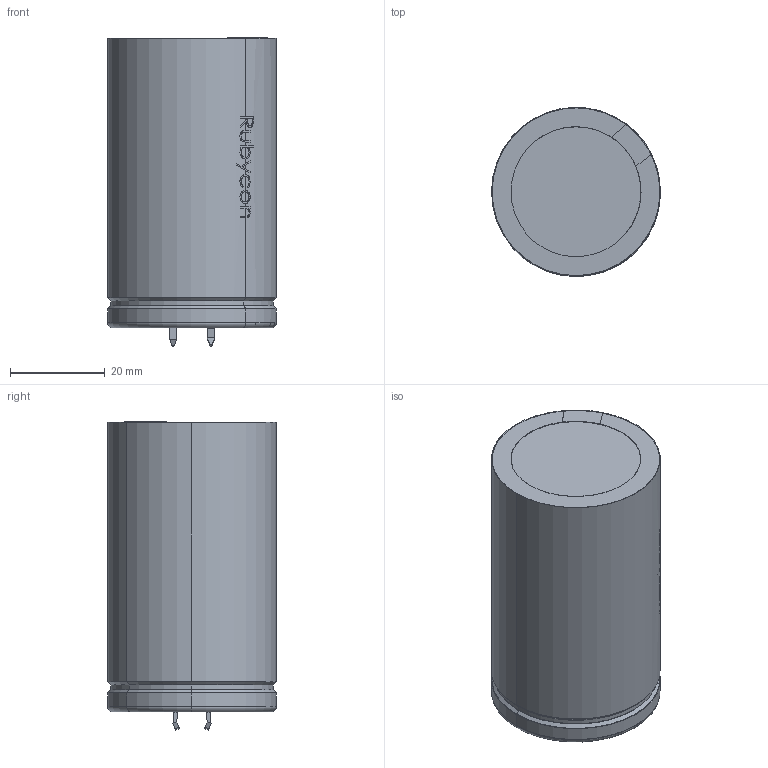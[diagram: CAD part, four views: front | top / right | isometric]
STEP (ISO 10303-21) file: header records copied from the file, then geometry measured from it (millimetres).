
FILE_DESCRIPTION (( 'STEP AP203' ), '1' );
FILE_NAME ('LB_35X60.STEP', '2021-11-08T02:06:51', ( '' ), ( '' ), 'SwSTEP 2.0', 'SolidWorks 2017', '' );
FILE_SCHEMA (( 'CONFIG_CONTROL_DESIGN' ));
Length unit declared in the file: millimetre
Products named in the file (27): LB_AIR_D35_L60_01; LB_ELEMENT3_D35_01; LB_ELEMENT1_D35_01; LB_BAKELITE_D35_01; LB_RUBBER_D35_01; LB_CASE_D35_L60_01; LB_35X60; LB_SLEEVE_D35_L60_01; LB_TERMINAL_01; LB_RIVET_02; LB_TAB_D35_L60_01; LB_ELEMENT2_D35_L60_01; LB_TERMINALBOARD_D35_01
Assembly tree (15 placements, depth 3):
  LB_AIR_D35_L60_01
  LB_BAKELITE_D35_01
  LB_35X60
    LB_ELEMENT2_D35_L60_01
    LB_ELEMENT1_D35_01
    LB_ELEMENT3_D35_01
    LB_TAB_D35_L60_01  x2
    LB_TERMINALBOARD_D35_01
      LB_BAKELITE_D35_01
      LB_RUBBER_D35_01
      LB_RIVET_02  x2
      LB_TERMINAL_01  x2
    LB_AIR_D35_L60_01
    LB_CASE_D35_L60_01
    LB_SLEEVE_D35_L60_01
  LB_TERMINAL_01
  LB_RIVET_02
Bounding box: 35.73 x 35.74 x 65.19 mm (x, y, z)
Volume: 60503.9 mm3; surface area: 65390.6 mm2
Topology: 16 solids, 16 shells, 446 faces, 1111 edges, 702 vertices
Faces by surface type: plane 159, cylinder 137, bspline 100, cone 30, torus 20
Entity records: 25172 total; most frequent: CARTESIAN_POINT 13955, ORIENTED_EDGE 1978, DIRECTION 1524, EDGE_CURVE 989, VERTEX_POINT 624, AXIS2_PLACEMENT_3D 566, EDGE_LOOP 431, ADVANCED_FACE 394
